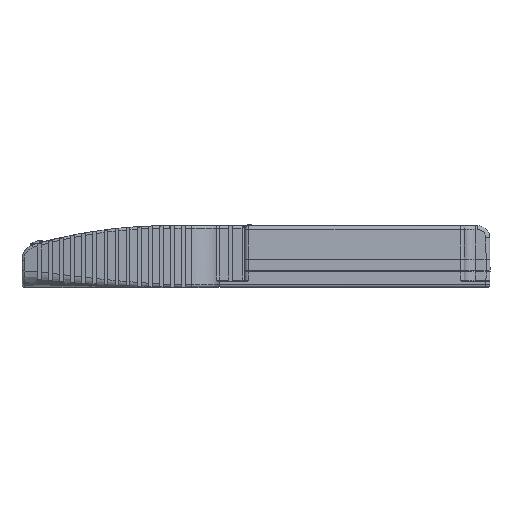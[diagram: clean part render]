
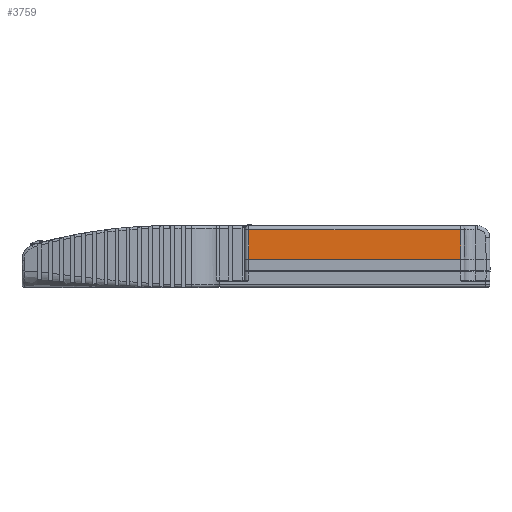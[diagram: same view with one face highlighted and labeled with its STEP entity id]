
A CAD part, top view. The second image highlights one B-rep face of the part: STEP entity #3759.
In plain terms, the highlighted planar face has unit normal (0, 0.009, 1).
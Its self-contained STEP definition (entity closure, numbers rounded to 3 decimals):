
#3547 = CARTESIAN_POINT ( 'NONE',  ( 44.651, -1.2, 37.5 ) ) ;
#3759 = ADVANCED_FACE ( 'NONE', ( #31743 ), #55046, .T. ) ;
#9160 = DIRECTION ( 'NONE',  ( 0., 0.009, 1. ) ) ;
#13744 = VERTEX_POINT ( 'NONE', #84899 ) ;
#22206 = LINE ( 'NONE', #99701, #84795 ) ;
#23869 = ORIENTED_EDGE ( 'NONE', *, *, #137579, .T. ) ;
#31743 = FACE_OUTER_BOUND ( 'NONE', #82552, .T. ) ;
#39092 = VERTEX_POINT ( 'NONE', #65661 ) ;
#39627 = DIRECTION ( 'NONE',  ( 1., 0., 0. ) ) ;
#46715 = EDGE_CURVE ( 'NONE', #13744, #124440, #22206, .T. ) ;
#51224 = VERTEX_POINT ( 'NONE', #111858 ) ;
#54363 = DIRECTION ( 'NONE',  ( -0.009, -1., 0.009 ) ) ;
#55046 = PLANE ( 'NONE',  #69961 ) ;
#59121 = EDGE_CURVE ( 'NONE', #39092, #51224, #66367, .T. ) ;
#64937 = ORIENTED_EDGE ( 'NONE', *, *, #46715, .T. ) ;
#65661 = CARTESIAN_POINT ( 'NONE',  ( -43.043, 10.914, 37.394 ) ) ;
#66339 = CARTESIAN_POINT ( 'NONE',  ( 44.651, -1.2, 37.5 ) ) ;
#66367 = LINE ( 'NONE', #134040, #99209 ) ;
#69961 = AXIS2_PLACEMENT_3D ( 'NONE', #66339, #9160, #77629 ) ;
#70002 = LINE ( 'NONE', #137653, #81876 ) ;
#77629 = DIRECTION ( 'NONE',  ( 0., -1., 0.009 ) ) ;
#81876 = VECTOR ( 'NONE', #91791, 1000. ) ;
#82552 = EDGE_LOOP ( 'NONE', ( #122697, #64937, #23869, #127219 ) ) ;
#84795 = VECTOR ( 'NONE', #114648, 1000. ) ;
#84899 = CARTESIAN_POINT ( 'NONE',  ( 43.051, -1.2, 37.5 ) ) ;
#91791 = DIRECTION ( 'NONE',  ( -1., 0., 0. ) ) ;
#96454 = CARTESIAN_POINT ( 'NONE',  ( 42.946, 10.914, 37.394 ) ) ;
#99209 = VECTOR ( 'NONE', #54363, 1000. ) ;
#99701 = CARTESIAN_POINT ( 'NONE',  ( 43.052, -1.214, 37.5 ) ) ;
#111858 = CARTESIAN_POINT ( 'NONE',  ( -43.149, -1.2, 37.5 ) ) ;
#114648 = DIRECTION ( 'NONE',  ( -0.009, 1., -0.009 ) ) ;
#115211 = EDGE_CURVE ( 'NONE', #51224, #13744, #144114, .T. ) ;
#119527 = VECTOR ( 'NONE', #39627, 1000. ) ;
#122697 = ORIENTED_EDGE ( 'NONE', *, *, #115211, .T. ) ;
#124440 = VERTEX_POINT ( 'NONE', #96454 ) ;
#127219 = ORIENTED_EDGE ( 'NONE', *, *, #59121, .T. ) ;
#134040 = CARTESIAN_POINT ( 'NONE',  ( -43.142, -0.434, 37.493 ) ) ;
#137579 = EDGE_CURVE ( 'NONE', #124440, #39092, #70002, .T. ) ;
#137653 = CARTESIAN_POINT ( 'NONE',  ( 44.651, 10.914, 37.394 ) ) ;
#144114 = LINE ( 'NONE', #3547, #119527 ) ;
